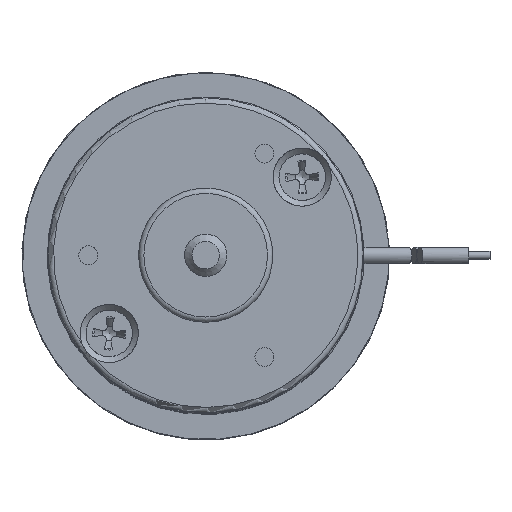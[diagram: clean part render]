
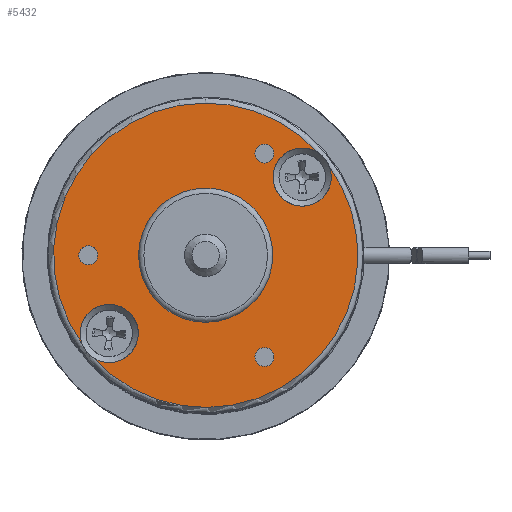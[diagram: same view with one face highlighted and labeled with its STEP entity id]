
A CAD part, top view. The second image highlights one B-rep face of the part: STEP entity #5432.
In plain terms, the highlighted planar face has unit normal (0, 0, 1).
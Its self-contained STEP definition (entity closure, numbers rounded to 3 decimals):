
#5345=CARTESIAN_POINT('',(0.,0.,76.7));
#5346=DIRECTION('',(0.0,0.0,-1.0));
#5347=DIRECTION('',(0.0,1.0,0.0));
#5348=AXIS2_PLACEMENT_3D('',#5345,#5346,#5347);
#5349=PLANE('',#5348);
#5350=CARTESIAN_POINT('',(11.685,8.416,76.7));
#5351=VERTEX_POINT('',#5350);
#5352=CARTESIAN_POINT('',(10.661,9.68,76.7));
#5353=VERTEX_POINT('',#5352);
#5354=CARTESIAN_POINT('',(9.131,7.395,76.7));
#5355=DIRECTION('',(0.0,0.0,-1.0));
#5356=DIRECTION('',(0.0,-1.0,0.0));
#5357=AXIS2_PLACEMENT_3D('',#5354,#5355,#5356);
#5358=CIRCLE('',#5357,2.75);
#5359=EDGE_CURVE('',#5351,#5353,#5358,.T.);
#5360=ORIENTED_EDGE('',*,*,#5359,.T.);
#5361=CARTESIAN_POINT('',(-11.685,-8.416,76.7));
#5362=VERTEX_POINT('',#5361);
#5363=CARTESIAN_POINT('',(0.,0.,76.7));
#5364=DIRECTION('',(0.0,0.0,-1.0));
#5365=DIRECTION('',(0.0,-1.0,0.0));
#5366=AXIS2_PLACEMENT_3D('',#5363,#5364,#5365);
#5367=CIRCLE('',#5366,14.4);
#5368=EDGE_CURVE('',#5362,#5353,#5367,.T.);
#5369=ORIENTED_EDGE('',*,*,#5368,.F.);
#5370=CARTESIAN_POINT('',(-10.661,-9.68,76.7));
#5371=VERTEX_POINT('',#5370);
#5372=CARTESIAN_POINT('',(-9.131,-7.395,76.7));
#5373=DIRECTION('',(0.0,0.0,-1.0));
#5374=DIRECTION('',(0.0,-1.0,0.0));
#5375=AXIS2_PLACEMENT_3D('',#5372,#5373,#5374);
#5376=CIRCLE('',#5375,2.75);
#5377=EDGE_CURVE('',#5362,#5371,#5376,.T.);
#5378=ORIENTED_EDGE('',*,*,#5377,.T.);
#5379=CARTESIAN_POINT('',(0.,0.,76.7));
#5380=DIRECTION('',(0.0,0.0,-1.0));
#5381=DIRECTION('',(0.0,-1.0,0.0));
#5382=AXIS2_PLACEMENT_3D('',#5379,#5380,#5381);
#5383=CIRCLE('',#5382,14.4);
#5384=EDGE_CURVE('',#5351,#5371,#5383,.T.);
#5385=ORIENTED_EDGE('',*,*,#5384,.F.);
#5386=EDGE_LOOP('',(#5360,#5369,#5378,#5385));
#5387=FACE_OUTER_BOUND('',#5386,.T.);
#5388=CARTESIAN_POINT('',(5.556,-10.524,76.7));
#5389=VERTEX_POINT('',#5388);
#5390=CARTESIAN_POINT('',(5.556,-9.624,76.7));
#5391=DIRECTION('',(0.0,0.0,-1.0));
#5392=DIRECTION('',(0.0,-1.0,0.0));
#5393=AXIS2_PLACEMENT_3D('',#5390,#5391,#5392);
#5394=CIRCLE('',#5393,0.9);
#5395=EDGE_CURVE('',#5389,#5389,#5394,.T.);
#5396=ORIENTED_EDGE('',*,*,#5395,.T.);
#5397=EDGE_LOOP('',(#5396));
#5398=FACE_BOUND('',#5397,.T.);
#5399=CARTESIAN_POINT('',(5.556,8.724,76.7));
#5400=VERTEX_POINT('',#5399);
#5401=CARTESIAN_POINT('',(5.556,9.624,76.7));
#5402=DIRECTION('',(0.0,0.0,-1.0));
#5403=DIRECTION('',(0.0,-1.0,0.0));
#5404=AXIS2_PLACEMENT_3D('',#5401,#5402,#5403);
#5405=CIRCLE('',#5404,0.9);
#5406=EDGE_CURVE('',#5400,#5400,#5405,.T.);
#5407=ORIENTED_EDGE('',*,*,#5406,.T.);
#5408=EDGE_LOOP('',(#5407));
#5409=FACE_BOUND('',#5408,.T.);
#5410=CARTESIAN_POINT('',(-11.113,-0.9,76.7));
#5411=VERTEX_POINT('',#5410);
#5412=CARTESIAN_POINT('',(-11.113,0.,76.7));
#5413=DIRECTION('',(0.0,0.0,-1.0));
#5414=DIRECTION('',(0.0,-1.0,0.0));
#5415=AXIS2_PLACEMENT_3D('',#5412,#5413,#5414);
#5416=CIRCLE('',#5415,0.9);
#5417=EDGE_CURVE('',#5411,#5411,#5416,.T.);
#5418=ORIENTED_EDGE('',*,*,#5417,.T.);
#5419=EDGE_LOOP('',(#5418));
#5420=FACE_BOUND('',#5419,.T.);
#5421=CARTESIAN_POINT('',(0.,-6.35,76.7));
#5422=VERTEX_POINT('',#5421);
#5423=CARTESIAN_POINT('',(0.,0.,76.7));
#5424=DIRECTION('',(0.0,0.0,-1.0));
#5425=DIRECTION('',(0.0,1.0,0.0));
#5426=AXIS2_PLACEMENT_3D('',#5423,#5424,#5425);
#5427=CIRCLE('',#5426,6.35);
#5428=EDGE_CURVE('',#5422,#5422,#5427,.T.);
#5429=ORIENTED_EDGE('',*,*,#5428,.T.);
#5430=EDGE_LOOP('',(#5429));
#5431=FACE_BOUND('',#5430,.T.);
#5432=ADVANCED_FACE('',(#5387,#5398,#5409,#5420,#5431),#5349,.F.);
